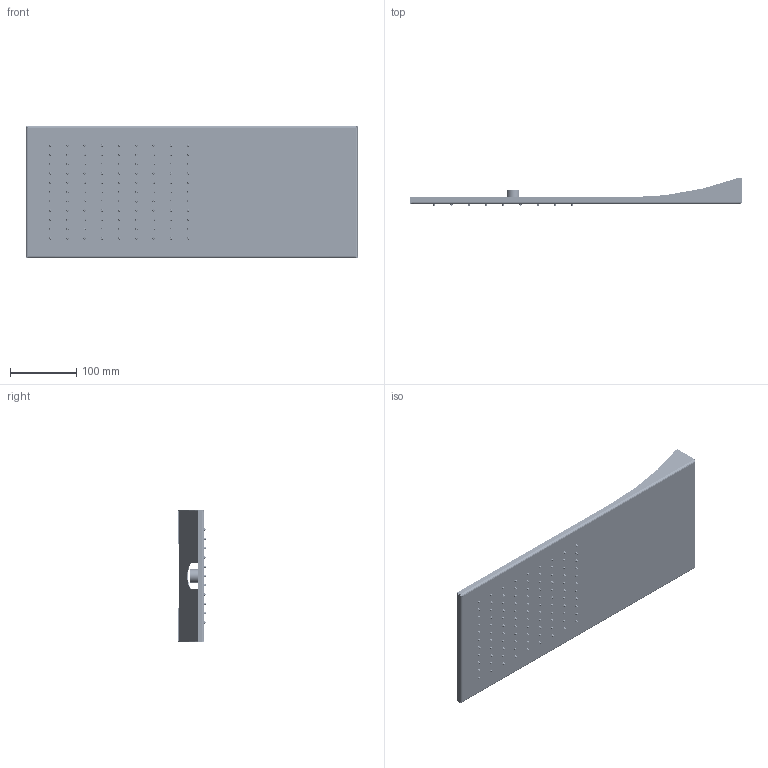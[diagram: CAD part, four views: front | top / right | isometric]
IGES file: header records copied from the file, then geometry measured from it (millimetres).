
Start section:  PTC IGES file: 90635.igs
Global section: file name: 90635.igs; native system: Creo Parametric by PTC Inc.; preprocessor: 2018100; author: carloff; organization: Unknown; date: 20210601.111318; units: millimetre
Bounding box: 500.5 x 43.3 x 200 mm (x, y, z)
Surface area: 525044.6 mm2 (no closed solid volume)
Topology: 0 solids, 0 shells, 4449 faces, 18264 edges, 18256 vertices
Faces by surface type: revolution 3842, bspline 606, extrusion 1
